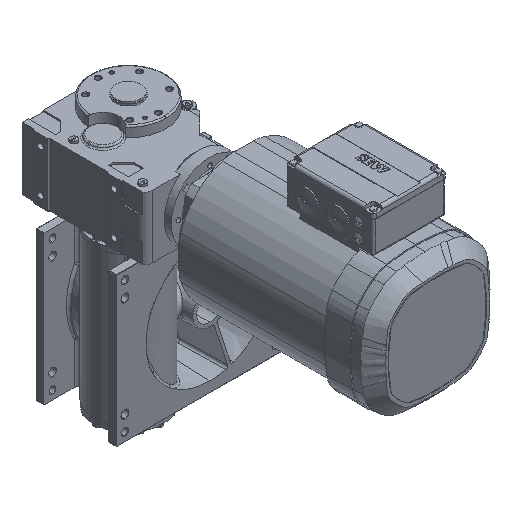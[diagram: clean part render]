
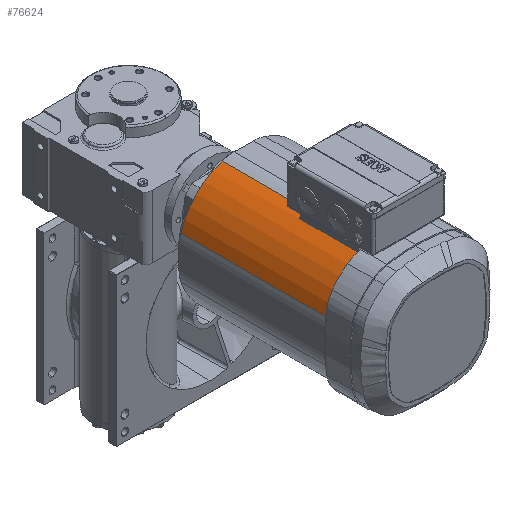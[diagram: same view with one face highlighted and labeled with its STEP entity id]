
A CAD part, isometric view. The second image highlights one B-rep face of the part: STEP entity #76624.
In plain terms, the highlighted cylindrical face has radius 131.23 mm (diameter 262.46 mm), a partial arc.
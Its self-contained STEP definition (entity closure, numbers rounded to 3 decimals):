
#600 = EDGE_CURVE ( 'NONE', #63399, #78471, #14971, .T. ) ;
#1017 = VECTOR ( 'NONE', #59648, 1000. ) ;
#1099 = EDGE_CURVE ( 'NONE', #93759, #44769, #69875, .T. ) ;
#2289 = CARTESIAN_POINT ( 'NONE',  ( -170.459, -361.916, 429.395 ) ) ;
#2301 = CARTESIAN_POINT ( 'NONE',  ( -159.007, -487., 433.43 ) ) ;
#2735 = CARTESIAN_POINT ( 'NONE',  ( -164.803, -362.013, 431.611 ) ) ;
#4850 = DIRECTION ( 'NONE',  ( 1., 0., 0. ) ) ;
#5850 = VERTEX_POINT ( 'NONE', #10919 ) ;
#6377 = DIRECTION ( 'NONE',  ( 1., 0., 0. ) ) ;
#8116 = CIRCLE ( 'NONE', #69295, 131.23 ) ;
#8332 = ORIENTED_EDGE ( 'NONE', *, *, #13175, .T. ) ;
#8558 = DIRECTION ( 'NONE',  ( 0., 1., 0. ) ) ;
#9472 = LINE ( 'NONE', #2301, #16469 ) ;
#10919 = CARTESIAN_POINT ( 'NONE',  ( -175.948, -361.802, 426.793 ) ) ;
#12296 = EDGE_CURVE ( 'NONE', #5850, #93759, #58456, .T. ) ;
#13175 = EDGE_CURVE ( 'NONE', #37113, #63399, #9472, .T. ) ;
#13203 = ORIENTED_EDGE ( 'NONE', *, *, #1099, .T. ) ;
#14971 = CIRCLE ( 'NONE', #21111, 131.23 ) ;
#16469 = VECTOR ( 'NONE', #8558, 1000. ) ;
#17035 = DIRECTION ( 'NONE',  ( 1., 0., 0. ) ) ;
#18901 = CARTESIAN_POINT ( 'NONE',  ( -175.948, -487., 426.793 ) ) ;
#19137 = CARTESIAN_POINT ( 'NONE',  ( -159.007, -487., 433.43 ) ) ;
#21111 = AXIS2_PLACEMENT_3D ( 'NONE', #25428, #90544, #4850 ) ;
#22768 = VECTOR ( 'NONE', #41078, 1000. ) ;
#23907 = CARTESIAN_POINT ( 'NONE',  ( -175.948, -482.75, 426.793 ) ) ;
#25428 = CARTESIAN_POINT ( 'NONE',  ( -119.72, -482.75, 308.219 ) ) ;
#27915 = DIRECTION ( 'NONE',  ( 0., 1., 0. ) ) ;
#31907 = VERTEX_POINT ( 'NONE', #56877 ) ;
#35052 = CYLINDRICAL_SURFACE ( 'NONE', #48467, 131.23 ) ;
#35818 = DIRECTION ( 'NONE',  ( 1., 0., 0. ) ) ;
#37113 = VERTEX_POINT ( 'NONE', #77093 ) ;
#38855 = ORIENTED_EDGE ( 'NONE', *, *, #74161, .F. ) ;
#39102 = CARTESIAN_POINT ( 'NONE',  ( -175.948, -361.802, 426.793 ) ) ;
#41078 = DIRECTION ( 'NONE',  ( 0., 1., 0. ) ) ;
#42443 = CIRCLE ( 'NONE', #76134, 131.23 ) ;
#43816 = LINE ( 'NONE', #67329, #1017 ) ;
#44769 = VERTEX_POINT ( 'NONE', #65150 ) ;
#45143 = ORIENTED_EDGE ( 'NONE', *, *, #62582, .F. ) ;
#48029 = DIRECTION ( 'NONE',  ( 0., 1., 0. ) ) ;
#48467 = AXIS2_PLACEMENT_3D ( 'NONE', #49884, #27915, #6377 ) ;
#49421 = ORIENTED_EDGE ( 'NONE', *, *, #12296, .T. ) ;
#49884 = CARTESIAN_POINT ( 'NONE',  ( -119.72, -487., 308.219 ) ) ;
#50663 = DIRECTION ( 'NONE',  ( 0., -1., 0. ) ) ;
#52900 = CARTESIAN_POINT ( 'NONE',  ( -119.72, -184.5, 308.219 ) ) ;
#55696 = FACE_OUTER_BOUND ( 'NONE', #94519, .T. ) ;
#56877 = CARTESIAN_POINT ( 'NONE',  ( -244.928, -487., 347.517 ) ) ;
#56947 = CARTESIAN_POINT ( 'NONE',  ( -119.72, -487., 308.219 ) ) ;
#57359 = VERTEX_POINT ( 'NONE', #79938 ) ;
#58456 =( BOUNDED_CURVE ( )  B_SPLINE_CURVE ( 3, ( #39102, #2289, #2735, #61197 ),
 .UNSPECIFIED., .F., .T. ) 
 B_SPLINE_CURVE_WITH_KNOTS ( ( 4, 4 ),
 ( 2.699, 2.838 ),
 .UNSPECIFIED. ) 
 CURVE ( )  GEOMETRIC_REPRESENTATION_ITEM ( )  RATIONAL_B_SPLINE_CURVE ( ( 1., 0.998, 0.998, 1. ) ) 
 REPRESENTATION_ITEM ( '' )  );
#59648 = DIRECTION ( 'NONE',  ( 0., 1., 0. ) ) ;
#61197 = CARTESIAN_POINT ( 'NONE',  ( -159.007, -362.092, 433.43 ) ) ;
#62582 = EDGE_CURVE ( 'NONE', #31907, #57359, #43816, .T. ) ;
#62690 = EDGE_CURVE ( 'NONE', #78471, #5850, #84468, .T. ) ;
#63260 = CARTESIAN_POINT ( 'NONE',  ( -159.007, -482.75, 433.43 ) ) ;
#63399 = VERTEX_POINT ( 'NONE', #63260 ) ;
#65150 = CARTESIAN_POINT ( 'NONE',  ( -159.007, -184.5, 433.43 ) ) ;
#67329 = CARTESIAN_POINT ( 'NONE',  ( -244.928, -487., 347.517 ) ) ;
#69295 = AXIS2_PLACEMENT_3D ( 'NONE', #56947, #50663, #35818 ) ;
#69875 = LINE ( 'NONE', #19137, #22768 ) ;
#74161 = EDGE_CURVE ( 'NONE', #37113, #31907, #8116, .T. ) ;
#76134 = AXIS2_PLACEMENT_3D ( 'NONE', #52900, #82577, #17035 ) ;
#76624 = ADVANCED_FACE ( 'NONE', ( #55696 ), #35052, .T. ) ;
#77093 = CARTESIAN_POINT ( 'NONE',  ( -159.007, -487., 433.43 ) ) ;
#78471 = VERTEX_POINT ( 'NONE', #23907 ) ;
#79938 = CARTESIAN_POINT ( 'NONE',  ( -244.928, -184.5, 347.517 ) ) ;
#82036 = VECTOR ( 'NONE', #48029, 1000. ) ;
#82577 = DIRECTION ( 'NONE',  ( 0., -1., 0. ) ) ;
#84468 = LINE ( 'NONE', #18901, #82036 ) ;
#86373 = EDGE_CURVE ( 'NONE', #44769, #57359, #42443, .T. ) ;
#86636 = ORIENTED_EDGE ( 'NONE', *, *, #600, .T. ) ;
#86830 = CARTESIAN_POINT ( 'NONE',  ( -159.007, -362.092, 433.43 ) ) ;
#90544 = DIRECTION ( 'NONE',  ( 0., -1., 0. ) ) ;
#92346 = ORIENTED_EDGE ( 'NONE', *, *, #62690, .T. ) ;
#93759 = VERTEX_POINT ( 'NONE', #86830 ) ;
#93783 = ORIENTED_EDGE ( 'NONE', *, *, #86373, .T. ) ;
#94519 = EDGE_LOOP ( 'NONE', ( #38855, #8332, #86636, #92346, #49421, #13203, #93783, #45143 ) ) ;
